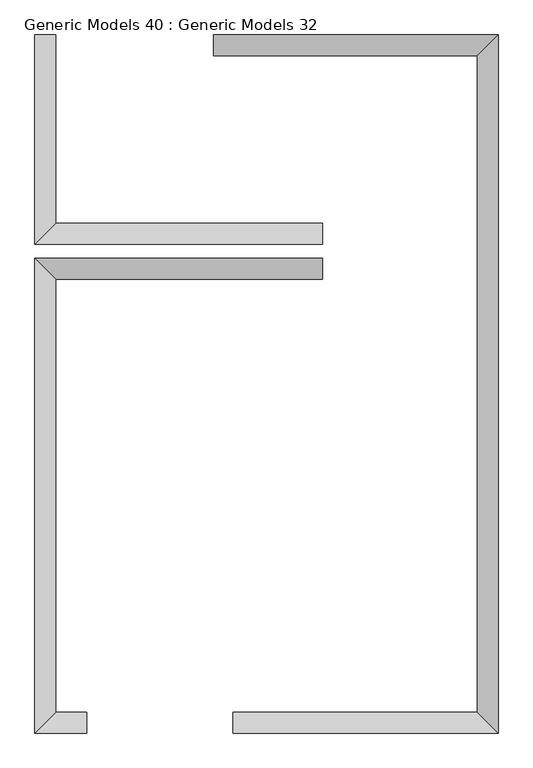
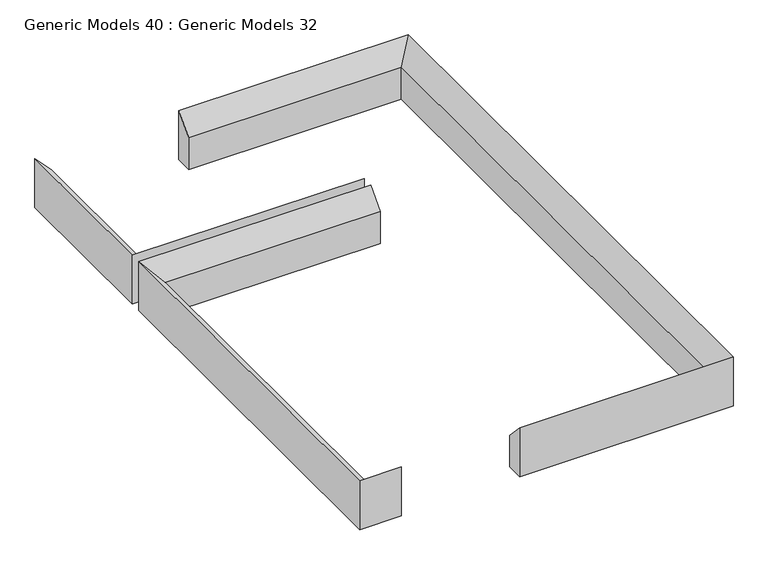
"""IFC4 building model written with IfcOpenShell, lengths in millimetres: proxy geometry, Generic Models 40 : Generic Models 32."""

from ifc_helpers import new_model, si_unit, origin, place, context, project, spatial, faceted_brep, source, transform, mapped, element, save


def generic_models_40_generic_models_32_09cfcb6a(model_context):
    return source(origin(), model_context, "Body", "Brep", [
        faceted_brep([(-124097.9372768, 20207.4925063, 44170.0), (-124247.9372768, 20207.4925063, 44170.0), (-124247.9372768, 20207.4925063, 44630.0), (-124097.9372768, 20207.4925063, 44470.0), (-124097.9372768, 18857.4703267, 44470.0), (-124097.9372768, 18857.4703267, 44170.0), (-124247.9372768, 18707.4703267, 44630.0), (-124247.9372768, 18707.4703267, 44170.0), (-122187.9372768, 18857.4703267, 44170.0), (-122187.9372768, 18707.4703267, 44170.0), (-122187.9372768, 18857.4703267, 44470.0), (-122187.9372768, 18707.4703267, 44630.0)], [[[0, 1, 2, 3]], [[0, 3, 4, 5]], [[3, 2, 6, 4]], [[2, 1, 7, 6]], [[1, 0, 5, 8, 9, 7]], [[8, 10, 11, 9]], [[5, 4, 10, 8]], [[4, 6, 11, 10]], [[6, 7, 9, 11]]]),
        faceted_brep([(-122826.2458208, 15357.4703267, 44170.0), (-122826.2458208, 15207.4703267, 44170.0), (-122826.2458208, 15207.4703267, 44630.0), (-122826.2458208, 15357.4703267, 44470.0), (-121077.3747667, 15357.4703267, 44170.0), (-121077.3747667, 15357.4703267, 44470.0), (-121077.3747667, 20057.4925063, 44470.0), (-121077.3747667, 20057.4925063, 44170.0), (-120927.3747667, 15207.4703267, 44630.0), (-120927.3747667, 20207.4925063, 44630.0), (-120927.3747667, 15207.4703267, 44170.0), (-120927.3747667, 20207.4925063, 44170.0), (-122967.3747667, 20057.4925063, 44170.0), (-122967.3747667, 20057.4925063, 44470.0), (-122967.3747667, 20207.4925063, 44630.0), (-122967.3747667, 20207.4925063, 44170.0)], [[[0, 1, 2, 3]], [[4, 5, 6, 7]], [[5, 8, 9, 6]], [[8, 10, 11, 9]], [[12, 13, 14, 15]], [[1, 0, 4, 7, 12, 15, 11, 10]], [[2, 1, 10, 8]], [[3, 2, 8, 5]], [[0, 3, 5, 4]], [[9, 11, 15, 14]], [[6, 9, 14, 13]], [[7, 6, 13, 12]]]),
        faceted_brep([(-124097.9372768, 15357.4703267, 44470.0), (-124097.9372768, 15357.4703267, 44170.0), (-124097.9372768, 18457.4703267, 44170.0), (-124097.9372768, 18457.4703267, 44470.0), (-124247.9372768, 15207.4703267, 44630.0), (-124247.9372768, 18607.4703267, 44630.0), (-124247.9372768, 15207.4703267, 44170.0), (-124247.9372768, 18607.4703267, 44170.0), (-122187.9372768, 18457.4703267, 44170.0), (-122187.9372768, 18457.4703267, 44470.0), (-122187.9372768, 18607.4703267, 44630.0), (-122187.9372768, 18607.4703267, 44170.0), (-123877.9372768, 15357.4703267, 44170.0), (-123877.9372768, 15357.4703267, 44470.0), (-123877.9372768, 15207.4703267, 44630.0), (-123877.9372768, 15207.4703267, 44170.0)], [[[0, 1, 2, 3]], [[4, 0, 3, 5]], [[6, 4, 5, 7]], [[3, 2, 8, 9]], [[5, 3, 9, 10]], [[7, 5, 10, 11]], [[12, 13, 14, 15]], [[8, 11, 10, 9]], [[13, 12, 1, 0]], [[14, 13, 0, 4]], [[15, 14, 4, 6]], [[12, 15, 6, 7, 11, 8, 2, 1]]]),
    ])


if __name__ == "__main__":
    model = new_model("IFC4")
    model_context = context("Model", 3, world=origin())
    ifc_project = project(units=[si_unit("LENGTHUNIT", "METRE", prefix="MILLI")], contexts=[model_context])
    site = spatial("IfcSite", under=ifc_project)
    building = spatial("IfcBuilding", under=site)
    placement = place(None, origin())
    generic_models_40_generic_models_32_shape = generic_models_40_generic_models_32_09cfcb6a(model_context)
    element("IfcBuildingElementProxy", 1, Name="Generic Models 40 : Generic Models 32", ObjectType="Generic Models 40 : Generic Models 32", at=placement, inside=building, context=model_context, shape_type="MappedRepresentation", body=[
        mapped(generic_models_40_generic_models_32_shape, transform((0.0, 0.0, 0.0), x_axis=(1.0, 0.0, 0.0), y_axis=(0.0, 1.0, 0.0), z_axis=(0.0, 0.0, 1.0))),
    ])
    save(model, "model.ifc")
